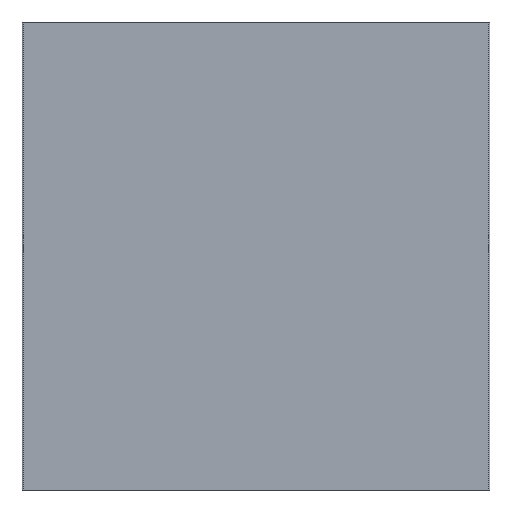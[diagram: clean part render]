
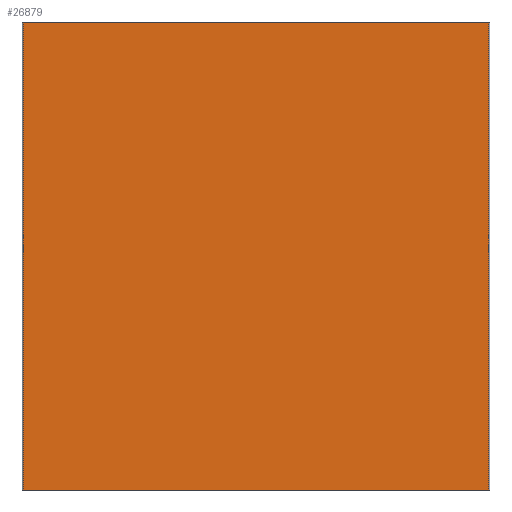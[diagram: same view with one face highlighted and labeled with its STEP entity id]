
A CAD part, front view. The second image highlights one B-rep face of the part: STEP entity #26879.
In plain terms, the highlighted planar face has unit normal (0, -1, 0).
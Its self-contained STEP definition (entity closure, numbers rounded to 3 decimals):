
#544 = DIRECTION ( 'NONE',  ( 0., 0., -1. ) ) ;
#5221 = VECTOR ( 'NONE', #38875, 1000. ) ;
#9283 = VERTEX_POINT ( 'NONE', #14472 ) ;
#11683 = DIRECTION ( 'NONE',  ( 0., 0., -1. ) ) ;
#13097 = FACE_OUTER_BOUND ( 'NONE', #22551, .T. ) ;
#13612 = LINE ( 'NONE', #30941, #16179 ) ;
#14472 = CARTESIAN_POINT ( 'NONE',  ( 71.027, 162.342, 200. ) ) ;
#15514 = CARTESIAN_POINT ( 'NONE',  ( 270.027, 162.342, 0. ) ) ;
#16179 = VECTOR ( 'NONE', #35133, 1000. ) ;
#16197 = LINE ( 'NONE', #34521, #5221 ) ;
#16788 = ORIENTED_EDGE ( 'NONE', *, *, #28090, .T. ) ;
#21635 = CARTESIAN_POINT ( 'NONE',  ( 270.027, 162.342, 200. ) ) ;
#21950 = VECTOR ( 'NONE', #27421, 1000. ) ;
#22551 = EDGE_LOOP ( 'NONE', ( #38765, #27001, #47882, #16788 ) ) ;
#25303 = DIRECTION ( 'NONE',  ( 0., -1., 0. ) ) ;
#26879 = ADVANCED_FACE ( 'NONE', ( #13097 ), #29281, .T. ) ;
#27001 = ORIENTED_EDGE ( 'NONE', *, *, #39852, .F. ) ;
#27421 = DIRECTION ( 'NONE',  ( -1., 0., 0. ) ) ;
#28090 = EDGE_CURVE ( 'NONE', #9283, #35509, #13612, .T. ) ;
#28283 = CARTESIAN_POINT ( 'NONE',  ( 270.027, 162.342, 200. ) ) ;
#28785 = VERTEX_POINT ( 'NONE', #15514 ) ;
#29265 = EDGE_CURVE ( 'NONE', #28785, #35509, #32943, .T. ) ;
#29281 = PLANE ( 'NONE',  #37763 ) ;
#30941 = CARTESIAN_POINT ( 'NONE',  ( 71.027, 162.342, 200. ) ) ;
#32758 = LINE ( 'NONE', #28283, #35375 ) ;
#32943 = LINE ( 'NONE', #39766, #21950 ) ;
#34521 = CARTESIAN_POINT ( 'NONE',  ( 0., 162.342, 200. ) ) ;
#35133 = DIRECTION ( 'NONE',  ( 0., 0., -1. ) ) ;
#35375 = VECTOR ( 'NONE', #11683, 1000. ) ;
#35509 = VERTEX_POINT ( 'NONE', #52837 ) ;
#37763 = AXIS2_PLACEMENT_3D ( 'NONE', #49923, #25303, #544 ) ;
#38765 = ORIENTED_EDGE ( 'NONE', *, *, #29265, .F. ) ;
#38875 = DIRECTION ( 'NONE',  ( -1., 0., 0. ) ) ;
#39182 = VERTEX_POINT ( 'NONE', #21635 ) ;
#39766 = CARTESIAN_POINT ( 'NONE',  ( 0., 162.342, 0. ) ) ;
#39852 = EDGE_CURVE ( 'NONE', #39182, #28785, #32758, .T. ) ;
#44030 = EDGE_CURVE ( 'NONE', #39182, #9283, #16197, .T. ) ;
#47882 = ORIENTED_EDGE ( 'NONE', *, *, #44030, .T. ) ;
#49923 = CARTESIAN_POINT ( 'NONE',  ( 0., 162.342, 200. ) ) ;
#52837 = CARTESIAN_POINT ( 'NONE',  ( 71.027, 162.342, 0. ) ) ;
